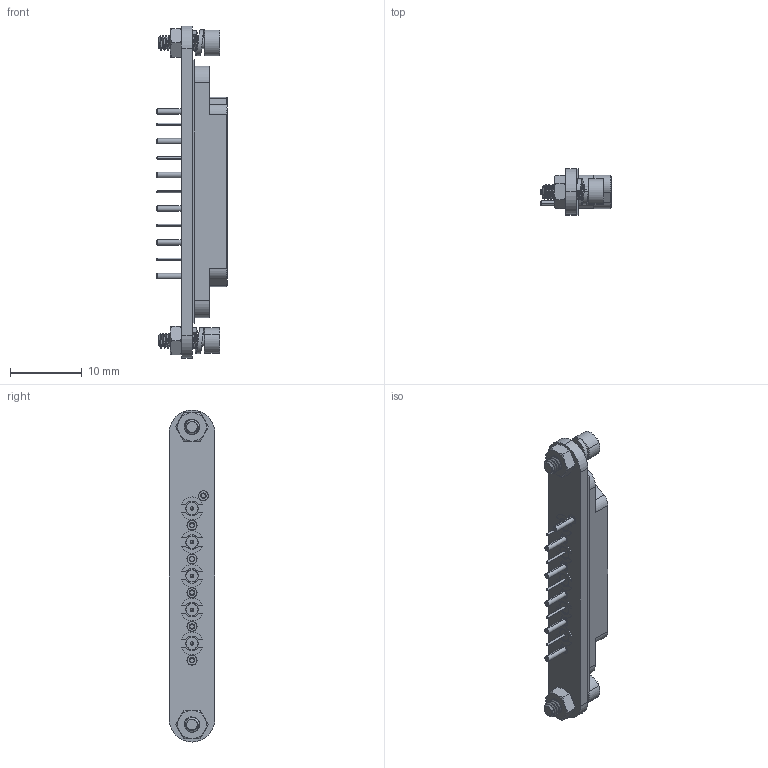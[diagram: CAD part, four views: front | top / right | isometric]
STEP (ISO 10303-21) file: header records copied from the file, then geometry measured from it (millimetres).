
FILE_DESCRIPTION (( 'STEP AP203' ), '1' );
FILE_NAME ('8869000G91P-104.STEP', '2023-11-08T20:42:23', ( '' ), ( '' ), 'SwSTEP 2.0', 'SolidWorks 2022', '' );
FILE_SCHEMA (( 'CONFIG_CONTROL_DESIGN' ));
Length unit declared in the file: inch
Products named in the file (1): 8869000G91P-104
Bounding box: 9.84 x 6.35 x 46.23 mm (x, y, z)
Volume: 1125 mm3; surface area: 2572.5 mm2
Topology: 29 solids, 29 shells, 2599 faces, 6292 edges, 3874 vertices
Faces by surface type: plane 1054, cone 855, cylinder 415, bspline 245, sphere 20, torus 10
Entity records: 94197 total; most frequent: CARTESIAN_POINT 37019, ORIENTED_EDGE 12536, DIRECTION 10866, EDGE_CURVE 6268, AXIS2_PLACEMENT_3D 4207, VERTEX_POINT 3874, EDGE_LOOP 2786, FACE_OUTER_BOUND 2599
